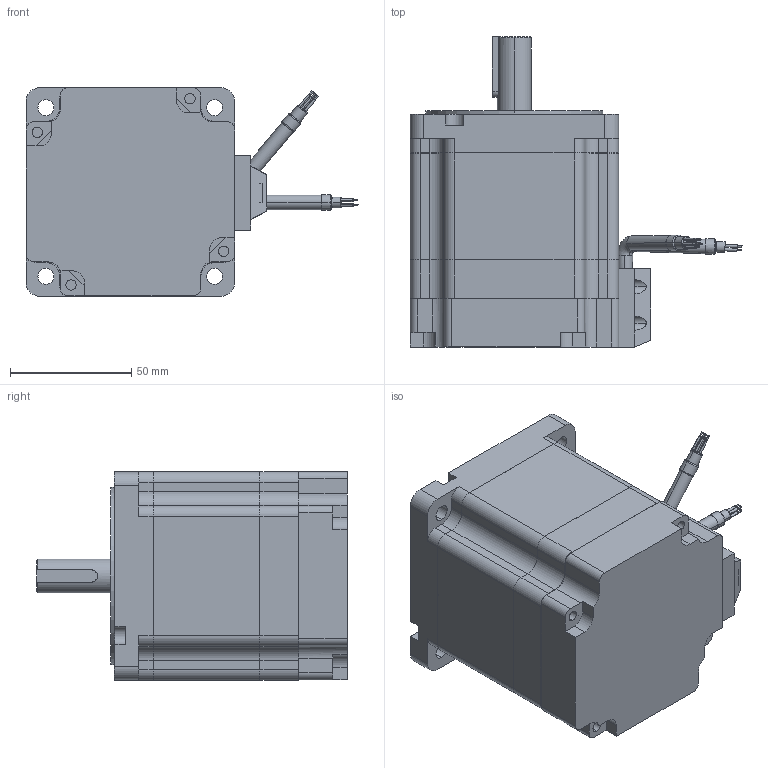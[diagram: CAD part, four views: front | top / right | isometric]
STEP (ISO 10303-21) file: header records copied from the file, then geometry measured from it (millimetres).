
FILE_DESCRIPTION (( 'STEP AP214' ), '1' );
FILE_NAME ('86HS276-6004E-XXX.STEP', '2023-12-29T02:41:56', ( 'MM' ), ( 'Microsoft' ), 'SwSTEP 2.0', 'SolidWorks 2020', '' );
FILE_SCHEMA (( 'AUTOMOTIVE_DESIGN' ));
Length unit declared in the file: millimetre
Products named in the file (1): 86HS276-6004E-XXX
Bounding box: 136.87 x 128 x 86 mm (x, y, z)
Volume: 577669.8 mm3; surface area: 81130.4 mm2
Topology: 4 solids, 4 shells, 412 faces, 1089 edges, 712 vertices
Faces by surface type: cylinder 196, plane 179, torus 22, cone 8, bspline 7
Entity records: 14434 total; most frequent: CARTESIAN_POINT 2537, DIRECTION 2353, ORIENTED_EDGE 2178, EDGE_CURVE 1089, AXIS2_PLACEMENT_3D 876, VERTEX_POINT 712, VECTOR 601, LINE 601
